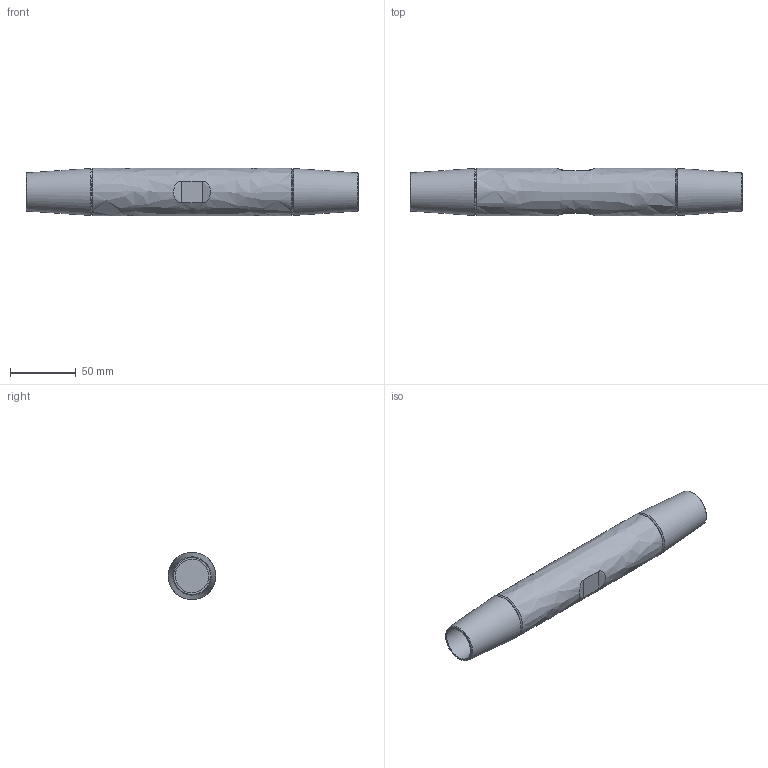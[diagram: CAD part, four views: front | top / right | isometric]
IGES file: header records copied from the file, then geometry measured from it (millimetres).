
Global section: file name: 520-024-MUF; native system: Autodesk Inventor 2016; preprocessor: unknown; author: Administrator; date: 20200630.131341; units: centimetre
Bounding box: 253 x 36 x 36 mm (x, y, z)
Volume: 198997.7 mm3; surface area: 35059.3 mm2
Topology: 1 solids, 1 shells, 21 faces, 52 edges, 36 vertices
Faces by surface type: bspline 21
